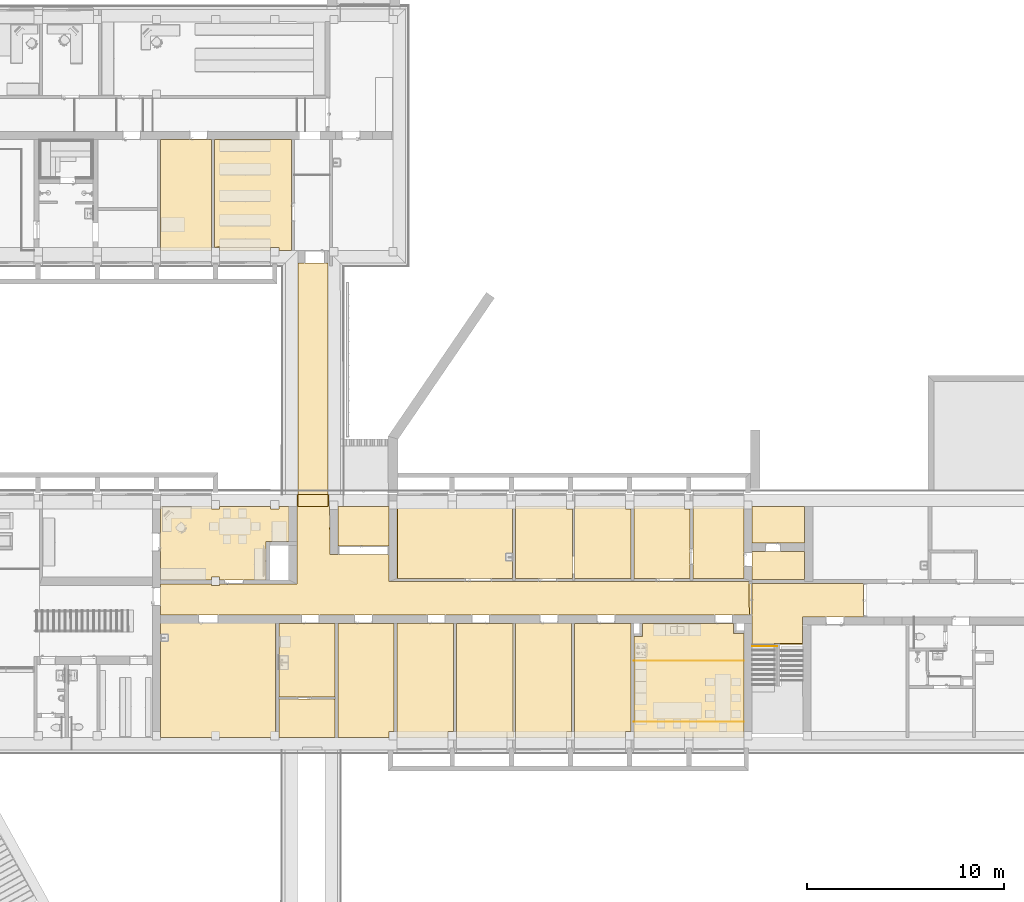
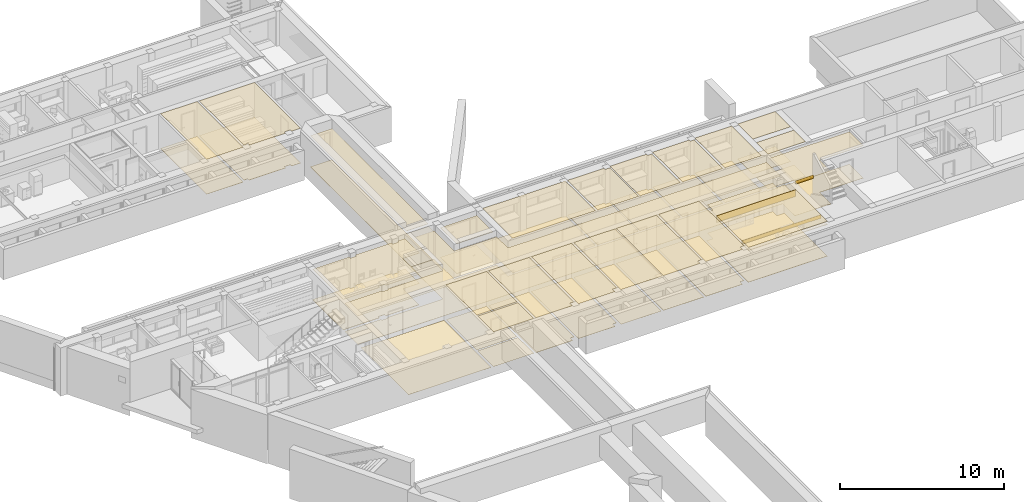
# One storey, part 69 of 127: 49 coverings.
"""IFC2X3 building model written with IfcOpenShell, lengths in millimetres."""

from ifc_helpers import new_model, entity, si_unit, converted_unit, derived_unit, money_unit, direction, frame, origin_with_axes, place, context, subcontext, project, spatial, polyline, outline, extrude, material, type_object, element, save


model = new_model("IFC2X3")

# Units and contexts
model_context = context("Model", 3, precision=1e-05, world=origin_with_axes(), true_north=direction((0.0, 1.0)))
body_context = subcontext(model_context, "Body", "Model", "MODEL_VIEW")
ifc_project = project(units=[si_unit("LENGTHUNIT", "METRE", prefix="MILLI"), si_unit("AREAUNIT", "SQUARE_METRE"), si_unit("VOLUMEUNIT", "CUBIC_METRE"), converted_unit("PLANEANGLEUNIT", "DEGREE", entity("IfcPlaneAngleMeasure", 0.0174532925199), si_unit("PLANEANGLEUNIT", "RADIAN"), dimensions=[0, 0, 0, 0, 0, 0, 0]), si_unit("SOLIDANGLEUNIT", "STERADIAN"), money_unit("EUR"), converted_unit("TIMEUNIT", "Year", entity("IfcTimeMeasure", 31556926.0), si_unit("TIMEUNIT", "SECOND"), dimensions=[0, 0, 1, 0, 0, 0, 0]), si_unit("MASSUNIT", "GRAM", prefix="KILO"), si_unit("THERMODYNAMICTEMPERATUREUNIT", "DEGREE_CELSIUS"), si_unit("LUMINOUSINTENSITYUNIT", "LUMEN"), si_unit("ENERGYUNIT", "JOULE", prefix="MEGA"), derived_unit("THERMALCONDUCTANCEUNIT", [(si_unit("POWERUNIT", "WATT"), 1), (si_unit("LENGTHUNIT", "METRE"), -1), (si_unit("THERMODYNAMICTEMPERATUREUNIT", "KELVIN"), -1)]), derived_unit("SPECIFICHEATCAPACITYUNIT", [(si_unit("ENERGYUNIT", "JOULE"), 1), (si_unit("MASSUNIT", "GRAM", prefix="KILO"), -1), (si_unit("THERMODYNAMICTEMPERATUREUNIT", "KELVIN"), -1)]), derived_unit("MASSDENSITYUNIT", [(si_unit("MASSUNIT", "GRAM", prefix="KILO"), 1), (si_unit("VOLUMEUNIT", "CUBIC_METRE"), -1)])], contexts=[model_context])

# Site, building, storey
site_placement = place(None, origin_with_axes())
site = spatial("IfcSite", under=ifc_project, at=site_placement, Name="Site", CompositionType="ELEMENT")
building_placement = place(site_placement, origin_with_axes())
building = spatial("IfcBuilding", under=site, at=building_placement, Name="Building", CompositionType="ELEMENT")
storey_placement = place(building_placement, origin_with_axes())
storey = spatial("IfcBuildingStorey", under=building, at=storey_placement, Name="1 KORRUS", CompositionType="ELEMENT", Elevation=0.0)

# Coverings
ifc_material_1 = material(Name="Värv")
covering_type_1 = type_object("IfcCoveringType", Name="L-3", PredefinedType="CLADDING")
covering_1_placement = place(storey_placement, frame((55155.2985697, 38778.8887323, 2600.0), z_axis=(0.0, 0.0, 1.0), x_axis=(1.0, 0.0, 0.0)))
element("IfcCovering", 1, at=covering_1_placement, inside=storey, type_object=covering_type_1, material=ifc_material_1, Name="Konstruktiivne lagi lauspahtel, värvitud", PredefinedType="CLADDING", context=body_context, shape_type="SweptSolid", body=[
    extrude(outline(polyline([(0.0, 0.0), (-0.134368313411, -3889.44808106), (5579.87572215, -3889.06809146), (5579.87572215, 0.0483093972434), (0.0, 0.0)])), frame((0.0, 0.0, -1.0), z_axis=(0.0, 0.0, 1.0), x_axis=(1.0, 0.0, 0.0)), (0.0, 0.0, 1.0), 1.0),
])
covering_2_placement = place(storey_placement, frame((31154.2491335, 59588.3513941, 2600.0), z_axis=(0.0, 0.0, 1.0), x_axis=(1.0, 0.0, 0.0)))
element("IfcCovering", 2, at=covering_2_placement, inside=storey, type_object=covering_type_1, material=ifc_material_1, Name="Konstruktiivne lagi lauspahtel, värvitud", PredefinedType="CLADDING", context=body_context, shape_type="SweptSolid", body=[
    extrude(outline(polyline([(0.0, 0.0), (2580.19185978, 0.290827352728), (2580.19185978, 5628.01766199), (0.0, 5628.01766199), (0.0, 0.0)])), frame((0.0, 0.0, -1.0), z_axis=(0.0, 0.0, 1.0), x_axis=(1.0, 0.0, 0.0)), (0.0, 0.0, 1.0), 1.0),
])
covering_type_2 = type_object("IfcCoveringType", Name="L-5", PredefinedType="CLADDING")
covering_3_placement = place(storey_placement, frame((37154.3292711, 36941.9939043, 2600.0), z_axis=(0.0, 0.0, 1.0), x_axis=(1.0, 0.0, 0.0)))
element("IfcCovering", 3, at=covering_3_placement, inside=storey, type_object=covering_type_2, material=ifc_material_1, Name="Konstruktiivne lagi kaetud tolmutõkkega ja värvitud", PredefinedType="CLADDING", context=body_context, shape_type="SweptSolid", body=[
    extrude(outline(polyline([(0.0, 0.0), (2848.62436369, 0.0), (2848.62436369, 3739.6303655), (0.0, 3739.6303655), (0.0, 0.0)])), frame((0.0, 0.0, -1.0), z_axis=(0.0, 0.0, 1.0), x_axis=(1.0, 0.0, 0.0)), (0.0, 0.0, 1.0), 1.0),
])
covering_4_placement = place(storey_placement, frame((46161.252328, 34889.0278497, 2600.0), z_axis=(0.0, 0.0, 1.0), x_axis=(1.0, 0.0, 0.0)))
element("IfcCovering", 4, at=covering_4_placement, inside=storey, type_object=covering_type_2, material=ifc_material_1, Name="Konstruktiivne lagi kaetud tolmutõkkega ja värvitud", PredefinedType="CLADDING", context=body_context, shape_type="SweptSolid", body=[
    extrude(outline(polyline([(0.0, 0.0), (2931.63798768, 0.0), (2931.63798768, 5792.59642014), (0.0, 5792.59642014), (0.0, 0.0)])), frame((0.0, 0.0, -1.0), z_axis=(0.0, 0.0, 1.0), x_axis=(1.0, 0.0, 0.0)), (0.0, 0.0, 1.0), 1.0),
])
covering_5_placement = place(storey_placement, frame((43158.5334508, 42953.8718916, 2600.0), z_axis=(0.0, 0.0, 1.0), x_axis=(1.0, 0.0, 0.0)))
element("IfcCovering", 5, at=covering_5_placement, inside=storey, type_object=covering_type_2, material=ifc_material_1, Name="Konstruktiivne lagi kaetud tolmutõkkega ja värvitud", PredefinedType="CLADDING", context=body_context, shape_type="SweptSolid", body=[
    extrude(outline(polyline([(0.0, 0.0), (5845.62161901, 0.0), (5845.62161901, 3660.56585159), (0.0, 3660.56585159), (0.0, 0.0)])), frame((0.0, 0.0, -1.0), z_axis=(0.0, 0.0, 1.0), x_axis=(1.0, 0.0, 0.0)), (0.0, 0.0, 1.0), 1.0),
])
covering_6_placement = place(storey_placement, frame((37154.3292711, 34888.4088839, 2600.0), z_axis=(0.0, 0.0, 1.0), x_axis=(1.0, 0.0, 0.0)))
element("IfcCovering", 6, at=covering_6_placement, inside=storey, type_object=covering_type_2, material=ifc_material_1, Name="Konstruktiivne lagi kaetud tolmutõkkega ja värvitud", PredefinedType="CLADDING", context=body_context, shape_type="SweptSolid", body=[
    extrude(outline(polyline([(0.0, 0.0), (2848.62436369, 0.0), (2848.62436369, 1950.33213592), (0.0, 1950.33213592), (0.0, 0.0)])), frame((0.0, 0.0, -1.0), z_axis=(0.0, 0.0, 1.0), x_axis=(1.0, 0.0, 0.0)), (0.0, 0.0, 1.0), 1.0),
])
covering_7_placement = place(storey_placement, frame((33884.2492095, 59738.4997082, 2600.0), z_axis=(0.0, 0.0, 1.0), x_axis=(1.0, 0.0, 0.0)))
element("IfcCovering", 7, at=covering_7_placement, inside=storey, type_object=covering_type_2, material=ifc_material_1, Name="Konstruktiivne lagi kaetud tolmutõkkega ja värvitud", PredefinedType="CLADDING", context=body_context, shape_type="SweptSolid", body=[
    extrude(outline(polyline([(0.0, 0.0), (358.872252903, 89.7011209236), (269.622937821, -149.525976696), (2850.04602246, -149.525976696), (2849.62249463, 0.815984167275), (3269.62248488, 0.815984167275), (3269.62248488, -149.478136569), (3908.76483034, -149.371725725), (3908.76483034, 5477.86934801), (0.0416754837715, 5477.86934801), (0.0, 0.0)])), frame((0.0, 0.0, -1.0), z_axis=(0.0, 0.0, 1.0), x_axis=(1.0, 0.0, 0.0)), (0.0, 0.0, 1.0), 1.0),
])
covering_8_placement = place(storey_placement, frame((40152.9536348, 40676.4966805, 2600.0), z_axis=(0.0, 0.0, 1.0), x_axis=(1.0, 0.0, 0.0)))
element("IfcCovering", 8, at=covering_8_placement, inside=storey, type_object=covering_type_2, material=ifc_material_1, Name="Konstruktiivne lagi kaetud tolmutõkkega ja värvitud", PredefinedType="CLADDING", context=body_context, shape_type="SweptSolid", body=[
    extrude(outline(polyline([(0.0, 0.0), (0.0, -5788.07758255), (2583.35800961, -5787.90168373), (2582.22070702, -5494.87243668), (2852.71918392, -5493.82250434), (2852.71918392, 0.0), (0.0, 0.0)])), frame((0.0, 0.0, -1.0), z_axis=(0.0, 0.0, 1.0), x_axis=(1.0, 0.0, 0.0)), (0.0, 0.0, 1.0), 1.0),
])
covering_9_placement = place(storey_placement, frame((46011.2606833, 40681.6242698, 2600.0), z_axis=(0.0, 0.0, 1.0), x_axis=(1.0, 0.0, 0.0)))
element("IfcCovering", 9, at=covering_9_placement, inside=storey, type_object=covering_type_2, material=ifc_material_1, Name="Konstruktiivne lagi kaetud tolmutõkkega ja värvitud", PredefinedType="CLADDING", context=body_context, shape_type="SweptSolid", body=[
    extrude(outline(polyline([(0.0, 0.0), (-2855.58783944, 0.0), (-2855.58783944, -5793.00070616), (-273.182592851, -5792.82486111), (-276.086365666, -5500.0), (-0.190849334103, -5499.90107142), (0.0, 0.0)])), frame((0.0, 0.0, -1.0), z_axis=(0.0, 0.0, 1.0), x_axis=(1.0, 0.0, 0.0)), (0.0, 0.0, 1.0), 1.0),
])
covering_10_placement = place(storey_placement, frame((49151.8152723, 34889.0318621, 2600.0), z_axis=(0.0, 0.0, 1.0), x_axis=(1.0, 0.0, 0.0)))
element("IfcCovering", 10, at=covering_10_placement, inside=storey, type_object=covering_type_2, material=ifc_material_1, Name="Konstruktiivne lagi kaetud tolmutõkkega ja värvitud", PredefinedType="CLADDING", context=body_context, shape_type="SweptSolid", body=[
    extrude(outline(polyline([(0.0, 0.0), (2579.99999402, 0.175681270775), (2583.3590454, 292.592407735), (2853.3590454, 292.78647426), (2853.359035, 5797.09615127), (0.200237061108, 5797.09615127), (0.0, 0.0)])), frame((0.0, 0.0, -1.0), z_axis=(0.0, 0.0, 1.0), x_axis=(1.0, 0.0, 0.0)), (0.0, 0.0, 1.0), 1.0),
])
covering_11_placement = place(storey_placement, frame((55005.3643317, 40681.6242698, 2600.0), z_axis=(0.0, 0.0, 1.0), x_axis=(1.0, 0.0, 0.0)))
element("IfcCovering", 11, at=covering_11_placement, inside=storey, type_object=covering_type_2, material=ifc_material_1, Name="Konstruktiivne lagi kaetud tolmutõkkega ja värvitud", PredefinedType="CLADDING", context=body_context, shape_type="SweptSolid", body=[
    extrude(outline(polyline([(0.0, 0.0), (-2850.19001398, 0.0), (-2850.19001398, -5792.38789846), (-273.457542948, -5792.21243968), (-270.190013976, -5500.0), (-0.190028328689, -5499.8059335), (0.0, 0.0)])), frame((0.0, 0.0, -1.0), z_axis=(0.0, 0.0, 1.0), x_axis=(1.0, 0.0, 0.0)), (0.0, 0.0, 1.0), 1.0),
])
covering_12_placement = place(storey_placement, frame((63820.4608177, 46610.7521378, 2600.0), z_axis=(0.0, 0.0, 1.0), x_axis=(1.0, 0.0, 0.0)))
element("IfcCovering", 12, at=covering_12_placement, inside=storey, type_object=covering_type_2, material=ifc_material_1, Name="Konstruktiivne lagi kaetud tolmutõkkega ja värvitud", PredefinedType="CLADDING", context=body_context, shape_type="SweptSolid", body=[
    extrude(outline(polyline([(0.0, 0.0), (-2666.80614692, 0.663395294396), (-2664.12850216, -1864.24007065), (0.0, -1864.24007065), (0.0, 0.0)])), frame((0.0, 0.0, -1.0), z_axis=(0.0, 0.0, 1.0), x_axis=(1.0, 0.0, 0.0)), (0.0, 0.0, 1.0), 1.0),
])
covering_13_placement = place(storey_placement, frame((63820.2205002, 44326.5120582, 2600.0), z_axis=(0.0, 0.0, 1.0), x_axis=(1.0, 0.0, 0.0)))
element("IfcCovering", 13, at=covering_13_placement, inside=storey, type_object=covering_type_2, material=ifc_material_1, Name="Konstruktiivne lagi kaetud tolmutõkkega ja värvitud", PredefinedType="CLADDING", context=body_context, shape_type="SweptSolid", body=[
    extrude(outline(polyline([(0.0, 0.0), (-2663.28514502, 0.0), (-2661.24631023, -1419.9999917), (0.0, -1419.9999917), (0.0, 0.0)])), frame((0.0, 0.0, -1.0), z_axis=(0.0, 0.0, 1.0), x_axis=(1.0, 0.0, 0.0)), (0.0, 0.0, 1.0), 1.0),
])
covering_14_placement = place(storey_placement, frame((60733.6540974, 46611.5199921, 2600.0), z_axis=(0.0, 0.0, 1.0), x_axis=(1.0, 0.0, 0.0)))
element("IfcCovering", 14, at=covering_14_placement, inside=storey, type_object=covering_type_2, material=ifc_material_1, Name="Konstruktiivne lagi kaetud tolmutõkkega ja värvitud", PredefinedType="CLADDING", context=body_context, shape_type="SweptSolid", body=[
    extrude(outline(polyline([(0.0, 0.0), (-2579.32482635, 0.64162259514), (-2579.32482635, -3655.61179983), (5.24876263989, -3655.61179983), (0.0, 0.0)])), frame((0.0, 0.0, -1.0), z_axis=(0.0, 0.0, 1.0), x_axis=(1.0, 0.0, 0.0)), (0.0, 0.0, 1.0), 1.0),
])
covering_15_placement = place(storey_placement, frame((54734.3292711, 46471.4699647, 2600.0), z_axis=(0.0, 0.0, 1.0), x_axis=(1.0, 0.0, 0.0)))
element("IfcCovering", 15, at=covering_15_placement, inside=storey, type_object=covering_type_2, material=ifc_material_1, Name="Konstruktiivne lagi kaetud tolmutõkkega ja värvitud", PredefinedType="CLADDING", context=body_context, shape_type="SweptSolid", body=[
    extrude(outline(polyline([(0.0, 0.0), (0.0352888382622, 141.542374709), (-2580.0, 142.184164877), (-2580.0, -3517.59807309), (275.352365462, -3517.59807309), (271.120834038, -0.709223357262), (0.0, 0.0)])), frame((0.0, 0.0, -1.0), z_axis=(0.0, 0.0, 1.0), x_axis=(1.0, 0.0, 0.0)), (0.0, 0.0, 1.0), 1.0),
])
covering_16_placement = place(storey_placement, frame((51734.3292711, 46471.4699647, 2600.0), z_axis=(0.0, 0.0, 1.0), x_axis=(1.0, 0.0, 0.0)))
element("IfcCovering", 16, at=covering_16_placement, inside=storey, type_object=covering_type_2, material=ifc_material_1, Name="Konstruktiivne lagi kaetud tolmutõkkega ja värvitud", PredefinedType="CLADDING", context=body_context, shape_type="SweptSolid", body=[
    extrude(outline(polyline([(0.0, 0.0), (0.0354744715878, 142.288632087), (-2580.17404461, 142.93046559), (-2575.72393779, -3511.60498913), (320.073158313, -3511.60498913), (322.557651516, -0.722018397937), (0.0, 0.0)])), frame((0.0, 0.0, -1.0), z_axis=(0.0, 0.0, 1.0), x_axis=(1.0, 0.0, 0.0)), (0.0, 0.0, 1.0), 1.0),
])
covering_17_placement = place(storey_placement, frame((57734.3292711, 46471.4699647, 2600.0), z_axis=(0.0, 0.0, 1.0), x_axis=(1.0, 0.0, 0.0)))
element("IfcCovering", 17, at=covering_17_placement, inside=storey, type_object=covering_type_2, material=ifc_material_1, Name="Konstruktiivne lagi kaetud tolmutõkkega ja värvitud", PredefinedType="CLADDING", context=body_context, shape_type="SweptSolid", body=[
    extrude(outline(polyline([(0.0, 0.0), (0.0351032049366, 140.796117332), (-2579.05008819, 141.437671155), (-2574.64755318, -3517.59807309), (269.99997816, -3517.59807309), (270.0, 0.438147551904), (0.0, 0.0)])), frame((0.0, 0.0, -1.0), z_axis=(0.0, 0.0, 1.0), x_axis=(1.0, 0.0, 0.0)), (0.0, 0.0, 1.0), 1.0),
])
ifc_material_2 = material(Name="Betoon - Ol.Olev konstruktsioon")
covering_type_3 = type_object("IfcCoveringType", Name="P-3", PredefinedType="NOTDEFINED")
covering_18_placement = place(storey_placement, frame((61159.0459941, 42910.6764666, 0.0), z_axis=(0.0, 0.0, 1.0), x_axis=(1.0, 0.0, 0.0)))
element("IfcCovering", 18, at=covering_18_placement, inside=storey, type_object=covering_type_3, material=ifc_material_2, Name="Betoon - Ol.Olev konstruktsioon", PredefinedType="NOTDEFINED", context=body_context, shape_type="SweptSolid", body=[
    extrude(outline(polyline([(0.0, 0.0), (2661.17450609, 0.0), (2661.17450609, 1415.83560051), (0.0, 1415.83560051), (0.0, 0.0)])), frame((0.0, 0.0, -20.0), z_axis=(0.0, 0.0, 1.0), x_axis=(1.0, 0.0, 0.0)), (0.0, 0.0, 1.0), 20.0),
])
covering_19_placement = place(storey_placement, frame((61153.6546707, 44746.5120671, 0.0), z_axis=(0.0, 0.0, 1.0), x_axis=(1.0, 0.0, 0.0)))
element("IfcCovering", 19, at=covering_19_placement, inside=storey, type_object=covering_type_3, material=ifc_material_2, Name="Betoon - Ol.Olev konstruktsioon", PredefinedType="NOTDEFINED", context=body_context, shape_type="SweptSolid", body=[
    extrude(outline(polyline([(0.0, 0.0), (2666.5658295, 0.0), (2666.5658295, 1864.90345798), (0.0, 1864.90345798), (0.0, 0.0)])), frame((0.0, 0.0, -20.0), z_axis=(0.0, 0.0, 1.0), x_axis=(1.0, 0.0, 0.0)), (0.0, 0.0, 1.0), 20.0),
])
covering_20_placement = place(storey_placement, frame((33884.2492095, 59738.4996782, 0.0), z_axis=(0.0, 0.0, 1.0), x_axis=(1.0, 0.0, 0.0)))
element("IfcCovering", 20, at=covering_20_placement, inside=storey, type_object=covering_type_3, material=ifc_material_2, Name="Betoon - Ol.Olev konstruktsioon", PredefinedType="NOTDEFINED", context=body_context, shape_type="SweptSolid", body=[
    extrude(outline(polyline([(0.0, 0.0), (270.052153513, 0.451829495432), (269.622965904, -149.525946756), (2850.04603688, -149.525946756), (2849.62248626, 0.815991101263), (3269.62252519, 0.815991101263), (3269.62252519, -149.478065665), (3908.76485367, -149.371653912), (3908.76485367, 5477.86937795), (0.041675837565, 5477.86937795), (0.0, 0.0)])), frame((0.0, 0.0, -20.0), z_axis=(0.0, 0.0, 1.0), x_axis=(1.0, 0.0, 0.0)), (0.0, 0.0, 1.0), 20.0),
])
covering_21_placement = place(storey_placement, frame((40152.9536348, 34888.4190979, 0.0), z_axis=(0.0, 0.0, 1.0), x_axis=(1.0, 0.0, 0.0)))
element("IfcCovering", 21, at=covering_21_placement, inside=storey, type_object=covering_type_3, material=ifc_material_2, Name="Betoon - Ol.Olev konstruktsioon", PredefinedType="NOTDEFINED", context=body_context, shape_type="SweptSolid", body=[
    extrude(outline(polyline([(0.0, 0.0), (2583.35800961, 0.175898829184), (2582.22070702, 293.205145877), (2852.71918392, 294.25507821), (2852.71918392, 5793.20517187), (0.0, 5793.20517187), (0.0, 0.0)])), frame((0.0, 0.0, -20.0), z_axis=(0.0, 0.0, 1.0), x_axis=(1.0, 0.0, 0.0)), (0.0, 0.0, 1.0), 20.0),
])
covering_22_placement = place(storey_placement, frame((43155.6728439, 40693.6687984, 0.0), z_axis=(0.0, 0.0, 1.0), x_axis=(1.0, 0.0, 0.0)))
element("IfcCovering", 22, at=covering_22_placement, inside=storey, type_object=covering_type_3, material=ifc_material_2, Name="Betoon - Ol.Olev konstruktsioon", PredefinedType="NOTDEFINED", context=body_context, shape_type="SweptSolid", body=[
    extrude(outline(polyline([(0.0, 0.0), (0.0, -5805.0452347), (2582.40525776, -5804.86942508), (2579.50146202, -5512.04456622), (2855.39697161, -5511.94561642), (2855.58825828, 0.0), (0.0, 0.0)])), frame((0.0, 0.0, -20.0), z_axis=(0.0, 0.0, 1.0), x_axis=(1.0, 0.0, 0.0)), (0.0, 0.0, 1.0), 20.0),
])
covering_23_placement = place(storey_placement, frame((49151.8152744, 34889.0318807, 0.0), z_axis=(0.0, 0.0, 1.0), x_axis=(1.0, 0.0, 0.0)))
element("IfcCovering", 23, at=covering_23_placement, inside=storey, type_object=covering_type_3, material=ifc_material_2, Name="Betoon - Ol.Olev konstruktsioon", PredefinedType="NOTDEFINED", context=body_context, shape_type="SweptSolid", body=[
    extrude(outline(polyline([(0.0, 0.0), (2853.35905992, 0.194274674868), (2853.35905992, 5792.59238912), (0.200081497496, 5792.59238912), (0.0, 0.0)])), frame((0.0, 0.0, -20.0), z_axis=(0.0, 0.0, 1.0), x_axis=(1.0, 0.0, 0.0)), (0.0, 0.0, 1.0), 20.0),
])
covering_24_placement = place(storey_placement, frame((52155.1743177, 40681.6242698, 0.0), z_axis=(0.0, 0.0, 1.0), x_axis=(1.0, 0.0, 0.0)))
element("IfcCovering", 24, at=covering_24_placement, inside=storey, type_object=covering_type_3, material=ifc_material_2, Name="Betoon - Ol.Olev konstruktsioon", PredefinedType="NOTDEFINED", context=body_context, shape_type="SweptSolid", body=[
    extrude(outline(polyline([(0.0, 0.0), (0.0, -5792.38789846), (2576.73244723, -5792.21243915), (2579.99999435, -5499.99996644), (2849.99994662, -5499.80589405), (2850.19001577, 0.0), (0.0, 0.0)])), frame((0.0, 0.0, -20.0), z_axis=(0.0, 0.0, 1.0), x_axis=(1.0, 0.0, 0.0)), (0.0, 0.0, 1.0), 20.0),
])
covering_25_placement = place(storey_placement, frame((51734.3647699, 46613.7585932, 0.0), z_axis=(0.0, 0.0, 1.0), x_axis=(1.0, 0.0, 0.0)))
element("IfcCovering", 25, at=covering_25_placement, inside=storey, type_object=covering_type_3, material=ifc_material_2, Name="Betoon - Ol.Olev konstruktsioon", PredefinedType="NOTDEFINED", context=body_context, shape_type="SweptSolid", body=[
    extrude(outline(polyline([(0.0, 0.0), (-2580.20954344, 0.641837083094), (-2575.75213888, -3659.88670159), (320.033417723, -3659.88670159), (322.522126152, -143.01061994), (-0.0355020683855, -142.288651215), (0.0, 0.0)])), frame((0.0, 0.0, -20.0), z_axis=(0.0, 0.0, 1.0), x_axis=(1.0, 0.0, 0.0)), (0.0, 0.0, 1.0), 20.0),
])
covering_26_placement = place(storey_placement, frame((54734.3645503, 46613.012364, 0.0), z_axis=(0.0, 0.0, 1.0), x_axis=(1.0, 0.0, 0.0)))
element("IfcCovering", 26, at=covering_26_placement, inside=storey, type_object=covering_type_3, material=ifc_material_2, Name="Betoon - Ol.Olev konstruktsioon", PredefinedType="NOTDEFINED", context=body_context, shape_type="SweptSolid", body=[
    extrude(outline(polyline([(0.0, 0.0), (-2580.03527919, 0.641765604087), (-2580.03527919, -3659.14047236), (275.317085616, -3659.14047236), (271.085530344, -142.251603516), (-0.0352710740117, -141.542374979), (0.0, 0.0)])), frame((0.0, 0.0, -20.0), z_axis=(0.0, 0.0, 1.0), x_axis=(1.0, 0.0, 0.0)), (0.0, 0.0, 1.0), 20.0),
])
covering_27_placement = place(storey_placement, frame((57734.3644013, 46612.2661097, 0.0), z_axis=(0.0, 0.0, 1.0), x_axis=(1.0, 0.0, 0.0)))
element("IfcCovering", 27, at=covering_27_placement, inside=storey, type_object=covering_type_3, material=ifc_material_2, Name="Betoon - Ol.Olev konstruktsioon", PredefinedType="NOTDEFINED", context=body_context, shape_type="SweptSolid", body=[
    extrude(outline(polyline([(0.0, 0.0), (-2579.08521844, 0.641526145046), (-2574.68035257, -3660.33144834), (269.964847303, -3660.33144834), (269.964847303, -140.35798284), (-0.0351521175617, -140.79615286), (0.0, 0.0)])), frame((0.0, 0.0, -20.0), z_axis=(0.0, 0.0, 1.0), x_axis=(1.0, 0.0, 0.0)), (0.0, 0.0, 1.0), 20.0),
])
covering_28_placement = place(storey_placement, frame((58154.3292711, 46612.1616147, 0.0), z_axis=(0.0, 0.0, 1.0), x_axis=(1.0, 0.0, 0.0)))
element("IfcCovering", 28, at=covering_28_placement, inside=storey, type_object=covering_type_3, material=ifc_material_2, Name="Betoon - Ol.Olev konstruktsioon", PredefinedType="NOTDEFINED", context=body_context, shape_type="SweptSolid", body=[
    extrude(outline(polyline([(0.0, 0.0), (0.0, -3660.22695335), (2584.57929423, -3660.22695335), (2579.32482635, -0.641622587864), (0.0, 0.0)])), frame((0.0, 0.0, -20.0), z_axis=(0.0, 0.0, 1.0), x_axis=(1.0, 0.0, 0.0)), (0.0, 0.0, 1.0), 20.0),
])
ifc_material_3 = material(Name="Kipsplaat")
covering_type_4 = type_object("IfcCoveringType", Name="L-4", PredefinedType="CEILING")
covering_29_placement = place(storey_placement, frame((33733.6960797, 42682.4199829, 2100.0), z_axis=(0.0, 0.0, 1.0), x_axis=(1.0, 0.0, 0.0)))
element("IfcCovering", 29, at=covering_29_placement, inside=storey, type_object=covering_type_4, material=ifc_material_3, Name="Ripplagi", PredefinedType="CEILING", context=body_context, shape_type="SweptSolid", body=[
    extrude(outline(polyline([(0.0, 0.0), (-2579.89298703, -4.12423710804), (-2578.95542474, -1577.98040332), (27281.7681701, -1577.98040332), (27268.6490381, 121.451914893), (9004.90120268, 121.451904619), (9003.23484774, 1489.88273061), (6004.12466826, 1490.06091065), (5998.31523855, 3934.32432311), (5950.91917522, 3934.33590222), (5951.97442965, 4530.87904518), (4340.02368208, 4530.86470091), (4342.72299734, 0.0), (420.513534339, 0.0), (420.096859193, -79.5445123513), (0.0967806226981, -79.5445123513), (0.0, 0.0)])), origin_with_axes(), (0.0, 0.0, 1.0), 15.0),
])
covering_30_placement = place(storey_placement, frame((61152.7452393, 39655.3969465, 2400.0), z_axis=(0.0, 0.0, 1.0), x_axis=(1.0, 0.0, 0.0)))
element("IfcCovering", 30, at=covering_30_placement, inside=storey, type_object=covering_type_4, material=ifc_material_3, Name="Ripplagi", PredefinedType="CEILING", context=body_context, shape_type="SweptSolid", body=[
    extrude(outline(polyline([(0.0, 0.0), (1.20407591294, -82.3091129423), (1123.46775631, -82.3091129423), (1123.46775631, 2.24660829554), (2566.32212927, -3.58760463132), (2568.21112395, 1347.66743631), (5651.10223797, 1347.66743631), (5651.10223797, 3051.11508197), (0.351407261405, 3051.11508197), (0.0, 0.0)])), origin_with_axes(), (0.0, 0.0, 1.0), 15.0),
])
covering_31_placement = place(storey_placement, frame((38111.9281433, 47213.2846492, 2300.0), z_axis=(0.0, 0.0, 1.0), x_axis=(1.0, 0.0, 0.0)))
element("IfcCovering", 31, at=covering_31_placement, inside=storey, type_object=covering_type_4, material=ifc_material_3, Name="Ripplagi", PredefinedType="CEILING", context=body_context, shape_type="SweptSolid", body=[
    extrude(outline(polyline([(0.0, 0.0), (1539.43040065, 0.217484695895), (1539.43040065, 11735.8241319), (4.26189609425, 11735.8241319), (0.0, 0.0)])), origin_with_axes(), (0.0, 0.0, 1.0), 15.0),
])
covering_32_placement = place(storey_placement, frame((40164.0399019, 44595.5031266, 2200.0), z_axis=(0.0, 0.0, 1.0), x_axis=(1.0, 0.0, 0.0)))
element("IfcCovering", 32, at=covering_32_placement, inside=storey, type_object=covering_type_4, material=ifc_material_3, Name="Ripplagi", PredefinedType="CEILING", context=body_context, shape_type="SweptSolid", body=[
    extrude(outline(polyline([(0.0, 0.0), (2572.37569032, 0.0), (2572.37569032, 2021.14820153), (0.0, 2021.14820153), (0.0, 0.0)])), origin_with_axes(), (0.0, 0.0, 1.0), 15.0),
])
covering_type_5 = type_object("IfcCoveringType", Name="P-6", PredefinedType="NOTDEFINED")
covering_33_placement = place(storey_placement, frame((40402.4613477, 46616.651326, 0.0), z_axis=(0.0, 0.0, 1.0), x_axis=(1.0, 0.0, 0.0)))
element("IfcCovering", 33, at=covering_33_placement, inside=storey, type_object=covering_type_5, material=ifc_material_2, Name="Betoon - Ol.Olev konstruktsioon", PredefinedType="NOTDEFINED", context=body_context, shape_type="SweptSolid", body=[
    extrude(outline(polyline([(-238.421445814, 0.0), (-238.421445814, -2021.15119632), (2331.49312689, -2021.15119632), (2331.49312689, -0.669313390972), (-238.421445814, 0.0)])), frame((0.0, 0.0, -20.0), z_axis=(0.0, 0.0, 1.0), x_axis=(1.0, 0.0, 0.0)), (0.0, 0.0, 1.0), 20.0),
])
covering_type_6 = type_object("IfcCoveringType", Name="P-2", PredefinedType="NOTDEFINED")
covering_34_placement = place(storey_placement, frame((55155.1641359, 34889.4406241, 0.0), z_axis=(0.0, 0.0, 1.0), x_axis=(1.0, 0.0, 0.0)))
element("IfcCovering", 34, at=covering_34_placement, inside=storey, type_object=covering_type_6, material=ifc_material_2, Name="Betoon - Ol.Olev konstruktsioon", PredefinedType="NOTDEFINED", context=body_context, shape_type="SweptSolid", body=[
    extrude(outline(polyline([(0.0, 0.0), (5580.01011933, 0.380024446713), (5580.01011933, 5287.15273354), (5065.59528761, 5287.15273354), (5065.59528761, 5792.18364569), (452.84534749, 5792.18364569), (452.84534749, 5113.16488873), (0.176677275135, 5113.18059721), (0.0, 0.0)])), frame((0.0, 0.0, -20.0), z_axis=(0.0, 0.0, 1.0), x_axis=(1.0, 0.0, 0.0)), (0.0, 0.0, 1.0), 20.0),
])
covering_35_placement = place(storey_placement, frame((31153.8006358, 46613.425426, 0.0), z_axis=(0.0, 0.0, 1.0), x_axis=(1.0, 0.0, 0.0)))
element("IfcCovering", 35, at=covering_35_placement, inside=storey, type_object=covering_type_6, material=ifc_material_2, Name="Betoon - Ol.Olev konstruktsioon", PredefinedType="NOTDEFINED", context=body_context, shape_type="SweptSolid", body=[
    extrude(outline(polyline([(0.0, 0.0), (0.0, -3731.00551845), (2579.99230257, -3731.00551845), (2579.99230257, -3590.5500172), (2999.99223568, -3590.5500172), (2999.99223568, -3731.00542129), (5348.4889673, -3731.00221521), (5348.4751714, -1774.7383645), (6519.90018827, -1774.7383645), (6519.90018827, 2.61354450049), (6000.50036004, 3.94076770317), (6000.50036004, -123.450702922), (5580.50042693, -123.450702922), (5580.50042693, 4.06444496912), (2999.99223568, 4.70634261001), (2999.99223568, -128.265275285), (2579.99230257, -128.265275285), (2579.74397649, 4.81330935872), (0.0, 0.0)])), frame((0.0, 0.0, -20.0), z_axis=(0.0, 0.0, 1.0), x_axis=(1.0, 0.0, 0.0)), (0.0, 0.0, 1.0), 20.0),
])
covering_36_placement = place(storey_placement, frame((31154.678365, 59588.3408604, 0.0), z_axis=(0.0, 0.0, 1.0), x_axis=(1.0, 0.0, 0.0)))
element("IfcCovering", 36, at=covering_36_placement, inside=storey, type_object=covering_type_6, material=ifc_material_2, Name="Betoon - Ol.Olev konstruktsioon", PredefinedType="NOTDEFINED", context=body_context, shape_type="SweptSolid", body=[
    extrude(outline(polyline([(0.0, 0.0), (2580.19185978, 0.290827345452), (2580.19185978, 5628.02819567), (0.0, 5628.02819567), (0.0, 0.0)])), frame((0.0, 0.0, -20.0), z_axis=(0.0, 0.0, 1.0), x_axis=(1.0, 0.0, 0.0)), (0.0, 0.0, 1.0), 20.0),
])
covering_type_7 = type_object("IfcCoveringType", Name="L-1", PredefinedType="CEILING")
covering_37_placement = place(storey_placement, frame((31153.8006358, 46613.4254375, 2250.0), z_axis=(0.0, 0.0, 1.0), x_axis=(1.0, 0.0, 0.0)))
element("IfcCovering", 37, at=covering_37_placement, inside=storey, type_object=covering_type_7, material=ifc_material_3, Name="Ripplagi. Akustine kipsplaat", PredefinedType="CEILING", context=body_context, shape_type="SweptSolid", body=[
    extrude(outline(polyline([(0.0, 0.0), (0.0, -3731.00552997), (2579.99227636, -3731.00552997), (2579.99227636, -3590.55000411), (2999.99227636, -3590.55000411), (2999.99227636, -3731.00540422), (5348.4889673, -3731.00222673), (5348.4751714, -1774.73837601), (6519.90018827, -1774.73837601), (6519.90018827, 2.61353297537), (6000.50038197, 3.94074818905), (6000.50038197, -123.450685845), (5580.50038197, -123.450685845), (5580.50038197, 4.06446223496), (2999.99223568, 4.70633109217), (2999.99223568, -128.265286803), (2579.99230257, -128.265286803), (2579.74400213, 4.81333184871), (0.0, 0.0)])), origin_with_axes(), (0.0, 0.0, 1.0), 20.0),
])
covering_type_8 = type_object("IfcCoveringType", Name="P-4", PredefinedType="NOTDEFINED")
covering_38_placement = place(storey_placement, frame((43154.3293681, 42953.8718916, 0.0), z_axis=(0.0, 0.0, 1.0), x_axis=(1.0, 0.0, 0.0)))
element("IfcCovering", 38, at=covering_38_placement, inside=storey, type_object=covering_type_8, material=ifc_material_2, Name="Betoon - Ol.Olev konstruktsioon", PredefinedType="NOTDEFINED", context=body_context, shape_type="SweptSolid", body=[
    extrude(outline(polyline([(0.0, 0.0), (5854.40167997, 0.0), (5854.40167997, 3662.02101021), (0.0, 3662.02101021), (0.0, 0.0)])), frame((0.0, 0.0, -2.0), z_axis=(0.0, 0.0, 1.0), x_axis=(1.0, 0.0, 0.0)), (0.0, 0.0, 1.0), 2.0),
])
covering_39_placement = place(storey_placement, frame((31153.8006358, 34888.1502732, 0.0), z_axis=(0.0, 0.0, 1.0), x_axis=(1.0, 0.0, 0.0)))
element("IfcCovering", 39, at=covering_39_placement, inside=storey, type_object=covering_type_8, material=ifc_material_2, Name="Betoon - Ol.Olev konstruktsioon", PredefinedType="NOTDEFINED", context=body_context, shape_type="SweptSolid", body=[
    extrude(outline(polyline([(0.0, 0.0), (5839.60127238, 0.0), (5839.60127238, 5803.01824558), (0.0, 5803.01824558), (0.0, 0.0)])), frame((0.0, 0.0, -2.0), z_axis=(0.0, 0.0, 1.0), x_axis=(1.0, 0.0, 0.0)), (0.0, 0.0, 1.0), 2.0),
])
covering_40_placement = place(storey_placement, frame((37154.3292711, 34888.4088839, 0.0), z_axis=(0.0, 0.0, 1.0), x_axis=(1.0, 0.0, 0.0)))
element("IfcCovering", 40, at=covering_40_placement, inside=storey, type_object=covering_type_8, material=ifc_material_2, Name="Betoon - Ol.Olev konstruktsioon", PredefinedType="NOTDEFINED", context=body_context, shape_type="SweptSolid", body=[
    extrude(outline(polyline([(0.0, 0.0), (2848.62436369, 0.0), (2848.62436369, 1950.33213592), (0.0, 1950.33213592), (0.0, 0.0)])), frame((0.0, 0.0, -2.0), z_axis=(0.0, 0.0, 1.0), x_axis=(1.0, 0.0, 0.0)), (0.0, 0.0, 1.0), 2.0),
])
covering_41_placement = place(storey_placement, frame((37154.3292711, 36942.1584862, 0.0), z_axis=(0.0, 0.0, 1.0), x_axis=(1.0, 0.0, 0.0)))
element("IfcCovering", 41, at=covering_41_placement, inside=storey, type_object=covering_type_8, material=ifc_material_2, Name="Betoon - Ol.Olev konstruktsioon", PredefinedType="NOTDEFINED", context=body_context, shape_type="SweptSolid", body=[
    extrude(outline(polyline([(0.0, 0.0), (2848.62436369, 0.0), (2848.62436369, 3739.46578358), (0.0, 3739.46578358), (0.0, 0.0)])), frame((0.0, 0.0, -2.0), z_axis=(0.0, 0.0, 1.0), x_axis=(1.0, 0.0, 0.0)), (0.0, 0.0, 1.0), 2.0),
])
covering_42_placement = place(storey_placement, frame((46161.252328, 34889.0216481, 0.0), z_axis=(0.0, 0.0, 1.0), x_axis=(1.0, 0.0, 0.0)))
element("IfcCovering", 42, at=covering_42_placement, inside=storey, type_object=covering_type_8, material=ifc_material_2, Name="Betoon - Ol.Olev konstruktsioon", PredefinedType="NOTDEFINED", context=body_context, shape_type="SweptSolid", body=[
    extrude(outline(polyline([(0.0, 0.0), (2840.56294382, 0.0), (2840.56294382, 5792.60262176), (0.0, 5792.60262176), (0.0, 0.0)])), frame((0.0, 0.0, -2.0), z_axis=(0.0, 0.0, 1.0), x_axis=(1.0, 0.0, 0.0)), (0.0, 0.0, 1.0), 2.0),
])
covering_type_9 = type_object("IfcCoveringType", Name="P-1", PredefinedType="NOTDEFINED")
covering_43_placement = place(storey_placement, frame((31157.1601273, 41092.1053237, 0.0), z_axis=(0.0, 0.0, 1.0), x_axis=(1.0, 0.0, 0.0)))
element("IfcCovering", 43, at=covering_43_placement, inside=storey, type_object=covering_type_9, material=ifc_material_2, Name="Põrandakate", PredefinedType="NOTDEFINED", context=body_context, shape_type="SweptSolid", body=[
    extrude(outline(polyline([(0.0, 0.0), (29996.0985924, 1.16415321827e-07), (29993.8027268, -1495.74981065), (32563.724707, -1495.75010715), (32563.7248693, -89.0403956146), (35646.68735, -89.0403956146), (35646.68735, 1614.49125526), (29845.9365807, 1614.40674281), (29845.9365807, 1711.76656787), (11581.4371115, 1711.76656787), (11579.7668932, 3083.39811423), (8581.22771585, 3079.5034315), (8574.85123039, 5524.63903811), (6921.29393177, 5525.04105273), (6921.29393177, 1590.31458382), (2997.04967389, 1590.31458382), (2996.63278489, 1510.77010967), (2576.63278489, 1510.77010967), (2576.53592463, 1590.31458382), (0.0, 1590.31458382), (0.0, 0.0)])), frame((0.0, 0.0, -20.0), z_axis=(0.0, 0.0, 1.0), x_axis=(1.0, 0.0, 0.0)), (0.0, 0.0, 1.0), 20.0),
])
covering_44_placement = place(storey_placement, frame((38111.9948367, 58949.2251694, 0.0), z_axis=(0.0, 0.0, 1.0), x_axis=(1.0, 0.0, 0.0)))
element("IfcCovering", 44, at=covering_44_placement, inside=storey, type_object=covering_type_9, material=ifc_material_2, Name="Põrandakate", PredefinedType="NOTDEFINED", context=body_context, shape_type="SweptSolid", body=[
    extrude(outline(polyline([(0.0, 0.0), (0.0, -12332.0336539), (1540.35415407, -12332.4611019), (1520.78086175, 0.0), (1363.87476418, 0.0913334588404), (1363.87513172, -1.37808767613), (0.0, 0.0)])), frame((0.0, 0.0, -20.0), z_axis=(0.0, 0.0, 1.0), x_axis=(1.0, 0.0, 0.0)), (0.0, 0.0, 1.0), 20.0),
])
covering_type_10 = type_object("IfcCoveringType", Name="L-6", PredefinedType="CEILING")
covering_45_placement = place(storey_placement, frame((55155.2985991, 38778.8887005, 2100.0), z_axis=(0.0, 0.0, 1.0), x_axis=(1.0, 0.0, 0.0)))
element("IfcCovering", 45, at=covering_45_placement, inside=storey, type_object=covering_type_10, material=ifc_material_3, Name="Kahekordne kipsplaadist ripplagi", PredefinedType="CEILING", context=body_context, shape_type="SweptSolid", body=[
    extrude(outline(polyline([(0.0, 0.0), (5579.87569277, 0.379980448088), (5579.87569277, 1397.70469927), (5065.46082241, 1397.70469927), (5065.46082241, 1902.7355492), (452.710868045, 1904.2501496), (452.710868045, 1223.71689019), (0.0422385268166, 1223.73252177), (0.0, 0.0)])), origin_with_axes(), (0.0, 0.0, 1.0), 26.0),
])
covering_46_placement = place(storey_placement, frame((55152.9073835, 34889.4404975, 2341.64887709), z_axis=(0.0, 0.0, 1.0), x_axis=(1.0, 0.0, 0.0)))
element("IfcCovering", 46, at=covering_46_placement, inside=storey, type_object=covering_type_10, material=ifc_material_3, Name="Kahekordne kipsplaadist ripplagi", PredefinedType="CEILING", context=body_context, shape_type="SweptSolid", body=[
    extrude(outline(polyline([(0.0, 0.0), (5582.26690827, 0.0), (5582.26690827, 797.557222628), (0.0, 797.557222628), (0.0, 0.0)])), origin_with_axes(), (0.0, 0.0, 1.0), 41.6488770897),
])
covering_type_11 = type_object("IfcCoveringType", Name="Kips", PredefinedType="CEILING")
covering_47_placement = place(storey_placement, frame((55155.2981499, 38778.8887005, 2100.0), z_axis=(0.0, 0.0, 1.0), x_axis=(0.999999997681, 6.80983751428e-05, 0.0)))
element("IfcCovering", 47, at=covering_47_placement, inside=storey, type_object=covering_type_11, material=ifc_material_3, Name="Kipsplaat", PredefinedType="CEILING", context=body_context, shape_type="SweptSolid", body=[
    extrude(outline(polyline([(0.000436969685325, 0.0), (5579.87615486, 0.0), (5579.87704014, 12.9999999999), (0.001771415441, 13.0000000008), (0.000436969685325, 0.0)])), origin_with_axes(), (0.0, 0.0, 1.0), 500.0),
])
covering_48_placement = place(storey_placement, frame((61155.1742918, 39509.4204106, 2415.0), z_axis=(0.0, 0.0, 1.0), x_axis=(0.999999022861, -0.0013979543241, 0.0)))
element("IfcCovering", 48, at=covering_48_placement, inside=storey, type_object=covering_type_11, material=ifc_material_3, Name="Kipsplaat", PredefinedType="CEILING", context=body_context, shape_type="SweptSolid", body=[
    extrude(outline(polyline([(0.0, 0.0), (1271.0399457, 0.0), (1271.0399457, 12.999999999), (1.13686837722e-10, 12.999999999), (0.0, 0.0)])), origin_with_axes(), (0.0, 0.0, 1.0), 250.0),
])
covering_49_placement = place(storey_placement, frame((55155.191758, 35686.9977202, 2341.64887709), z_axis=(0.0, 0.0, 1.0), x_axis=(1.0, 0.0, 0.0)))
element("IfcCovering", 49, at=covering_49_placement, inside=storey, type_object=covering_type_11, material=ifc_material_3, Name="Kipsplaat", PredefinedType="CEILING", context=body_context, shape_type="SweptSolid", body=[
    extrude(outline(polyline([(-1.13686837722e-10, 0.0), (5579.98253379, 0.0), (5579.98253379, 12.9999999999), (0.00044916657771, 12.9999999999), (-1.13686837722e-10, 0.0)])), origin_with_axes(), (0.0, 0.0, 1.0), 258.35112291),
])

save(model, "model.ifc")
